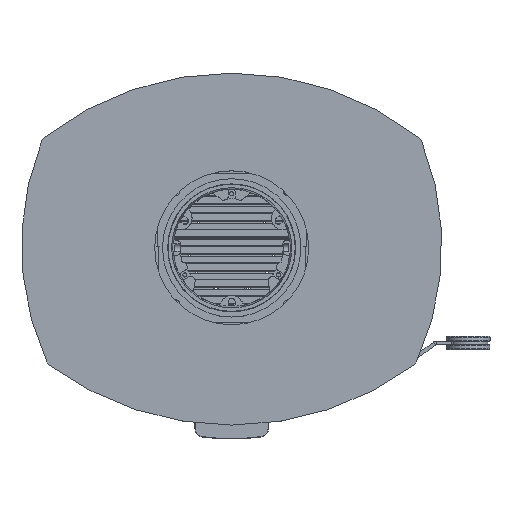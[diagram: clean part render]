
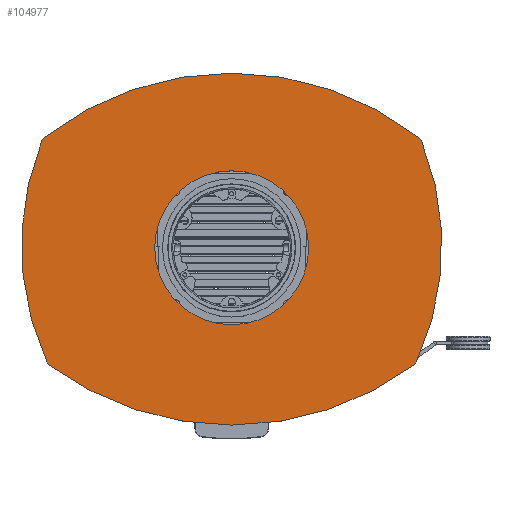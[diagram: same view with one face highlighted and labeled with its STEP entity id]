
A CAD part, top view. The second image highlights one B-rep face of the part: STEP entity #104977.
In plain terms, the highlighted planar face has unit normal (0, 0, 1).
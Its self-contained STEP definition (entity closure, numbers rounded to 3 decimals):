
#4315=FACE_BOUND('',#15557,.T.);
#9694=FACE_OUTER_BOUND('',#15556,.T.);
#15556=EDGE_LOOP('',(#91498,#91499,#91500,#91501,#91502,#91503,#91504,#91505));
#15557=EDGE_LOOP('',(#91506));
#19840=CIRCLE('',#114241,89.);
#19843=CIRCLE('',#114245,10.);
#19844=CIRCLE('',#114247,355.);
#19845=CIRCLE('',#114248,10.);
#19846=CIRCLE('',#114249,323.);
#19847=CIRCLE('',#114250,10.);
#19848=CIRCLE('',#114251,352.);
#19849=CIRCLE('',#114252,10.);
#19850=CIRCLE('',#114253,323.);
#47540=VERTEX_POINT('',#200825);
#47544=VERTEX_POINT('',#200834);
#47545=VERTEX_POINT('',#200836);
#47546=VERTEX_POINT('',#200840);
#47547=VERTEX_POINT('',#200842);
#47548=VERTEX_POINT('',#200844);
#47549=VERTEX_POINT('',#200846);
#47550=VERTEX_POINT('',#200848);
#47551=VERTEX_POINT('',#200850);
#62193=EDGE_CURVE('',#47540,#47540,#19840,.T.);
#62198=EDGE_CURVE('',#47544,#47545,#19843,.T.);
#62200=EDGE_CURVE('',#47546,#47544,#19844,.T.);
#62201=EDGE_CURVE('',#47547,#47546,#19845,.T.);
#62202=EDGE_CURVE('',#47548,#47547,#19846,.T.);
#62203=EDGE_CURVE('',#47549,#47548,#19847,.T.);
#62204=EDGE_CURVE('',#47550,#47549,#19848,.T.);
#62205=EDGE_CURVE('',#47551,#47550,#19849,.T.);
#62206=EDGE_CURVE('',#47545,#47551,#19850,.T.);
#91498=ORIENTED_EDGE('',*,*,#62198,.F.);
#91499=ORIENTED_EDGE('',*,*,#62200,.F.);
#91500=ORIENTED_EDGE('',*,*,#62201,.F.);
#91501=ORIENTED_EDGE('',*,*,#62202,.F.);
#91502=ORIENTED_EDGE('',*,*,#62203,.F.);
#91503=ORIENTED_EDGE('',*,*,#62204,.F.);
#91504=ORIENTED_EDGE('',*,*,#62205,.F.);
#91505=ORIENTED_EDGE('',*,*,#62206,.F.);
#91506=ORIENTED_EDGE('',*,*,#62193,.T.);
#94201=PLANE('',#114246);
#104977=ADVANCED_FACE('',(#9694,#4315),#94201,.F.);
#114241=AXIS2_PLACEMENT_3D('',#200826,#141985,#141986);
#114245=AXIS2_PLACEMENT_3D('',#200837,#141995,#141996);
#114246=AXIS2_PLACEMENT_3D('',#200839,#141998,#141999);
#114247=AXIS2_PLACEMENT_3D('',#200841,#142000,#142001);
#114248=AXIS2_PLACEMENT_3D('',#200843,#142002,#142003);
#114249=AXIS2_PLACEMENT_3D('',#200845,#142004,#142005);
#114250=AXIS2_PLACEMENT_3D('',#200847,#142006,#142007);
#114251=AXIS2_PLACEMENT_3D('',#200849,#142008,#142009);
#114252=AXIS2_PLACEMENT_3D('',#200851,#142010,#142011);
#114253=AXIS2_PLACEMENT_3D('',#200852,#142012,#142013);
#141985=DIRECTION('center_axis',(0.,0.,
-1.));
#141986=DIRECTION('ref_axis',(1.,0.,0.));
#141995=DIRECTION('center_axis',(0.,0.,
-1.));
#141996=DIRECTION('ref_axis',(-0.776,-0.631,0.));
#141998=DIRECTION('center_axis',(0.,0.,
-1.));
#141999=DIRECTION('ref_axis',(1.,0.,0.));
#142000=DIRECTION('center_axis',(0.,0.,
-1.));
#142001=DIRECTION('ref_axis',(0.599,-0.801,0.));
#142002=DIRECTION('center_axis',(0.,0.,
-1.));
#142003=DIRECTION('ref_axis',(0.776,-0.631,0.));
#142004=DIRECTION('center_axis',(0.,0.,
-1.));
#142005=DIRECTION('ref_axis',(0.924,0.382,0.));
#142006=DIRECTION('center_axis',(0.,0.,
-1.));
#142007=DIRECTION('ref_axis',(0.798,0.602,0.));
#142008=DIRECTION('center_axis',(0.,0.,
-1.));
#142009=DIRECTION('ref_axis',(-0.621,0.784,0.));
#142010=DIRECTION('center_axis',(0.,0.,
-1.));
#142011=DIRECTION('ref_axis',(-0.798,0.602,0.));
#142012=DIRECTION('center_axis',(0.,0.,
-1.));
#142013=DIRECTION('ref_axis',(-0.906,-0.424,0.));
#200825=CARTESIAN_POINT('',(-89.,-150.,354.));
#200826=CARTESIAN_POINT('Origin',(0.,-150.,
354.));
#200834=CARTESIAN_POINT('',(-210.525,-285.84,354.));
#200836=CARTESIAN_POINT('',(-213.687,-281.95,354.));
#200837=CARTESIAN_POINT('Origin',(-204.595,-277.788,354.));
#200839=CARTESIAN_POINT('Origin',(0.,-151.453,
354.));
#200840=CARTESIAN_POINT('',(210.525,-285.84,354.));
#200841=CARTESIAN_POINT('Origin',(0.,0.,
354.));
#200842=CARTESIAN_POINT('',(213.687,-281.95,354.));
#200843=CARTESIAN_POINT('Origin',(204.595,-277.788,354.));
#200844=CARTESIAN_POINT('',(219.469,-26.473,354.));
#200845=CARTESIAN_POINT('Origin',(-80.,-147.5,354.));
#200846=CARTESIAN_POINT('',(216.343,-22.332,354.));
#200847=CARTESIAN_POINT('Origin',(210.197,-30.22,354.));
#200848=CARTESIAN_POINT('',(-216.343,-22.332,354.));
#200849=CARTESIAN_POINT('Origin',(0.,-300.,
354.));
#200850=CARTESIAN_POINT('',(-219.469,-26.473,354.));
#200851=CARTESIAN_POINT('Origin',(-210.197,-30.22,354.));
#200852=CARTESIAN_POINT('Origin',(80.,-147.5,354.));
